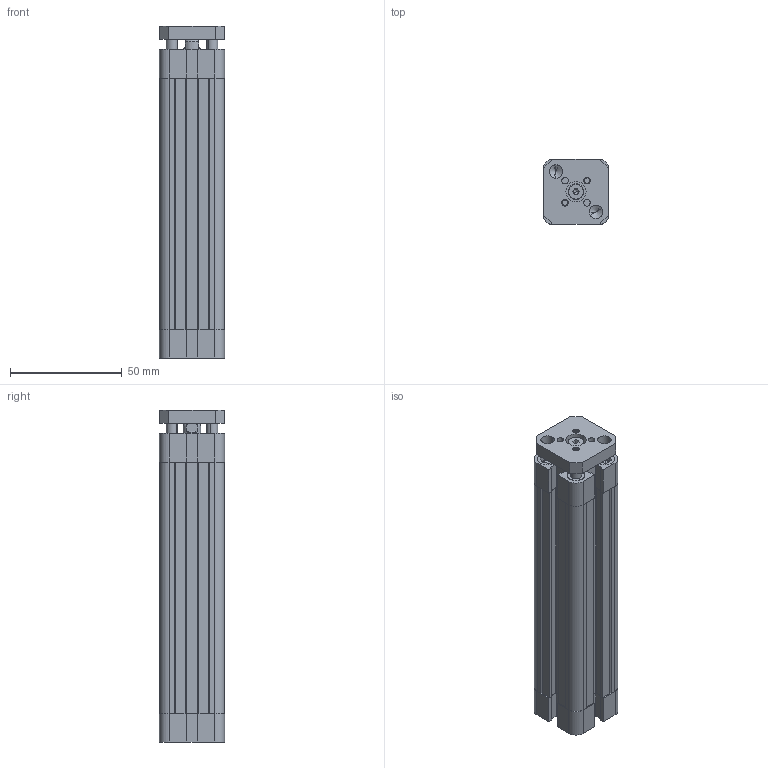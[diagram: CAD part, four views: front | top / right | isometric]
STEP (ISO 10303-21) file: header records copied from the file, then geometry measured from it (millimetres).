
FILE_DESCRIPTION (( 'STEP AP203' ), '1' );
FILE_NAME ('NSKU016.0100 F AR.STEP', '2010-06-04T12:27:32', ( 'Vesta Automation srl' ), ( 'Vesta Automation srl' ), 'SwSTEP 2.0', 'SolidWorks 2009', '' );
FILE_SCHEMA (( 'CONFIG_CONTROL_DESIGN' ));
Length unit declared in the file: millimetre
Products named in the file (7): PISTON ROD-NSKU 016 F_STROKE 0100; ANTI ROTATION STEEM-NSKU16AR_STROKE 0100; NSKU016.0100 F AR; FRONT END CAP-NSKU 16 AR; ANTI ROTATION PLATE-NSKU16AR; REAR END CAP-NSKU 16 AR; BARREL-NSKU16AR_STROKE 0100
Assembly tree (7 placements, depth 2):
  NSKU016.0100 F AR
    ANTI ROTATION STEEM-NSKU16AR_STROKE 0100  x2
    FRONT END CAP-NSKU 16 AR
    PISTON ROD-NSKU 016 F_STROKE 0100
    ANTI ROTATION PLATE-NSKU16AR
    BARREL-NSKU16AR_STROKE 0100
    REAR END CAP-NSKU 16 AR
Bounding box: 29.2 x 29.2 x 148.5 mm (x, y, z)
Volume: 82246.7 mm3; surface area: 51834.2 mm2
Topology: 8 solids, 8 shells, 725 faces, 1759 edges, 1074 vertices
Faces by surface type: plane 331, cone 233, cylinder 157, torus 4
Entity records: 21597 total; most frequent: DIRECTION 3742, CARTESIAN_POINT 3607, ORIENTED_EDGE 3478, EDGE_CURVE 1739, AXIS2_PLACEMENT_3D 1281, VECTOR 1180, LINE 1180, VERTEX_POINT 1068
